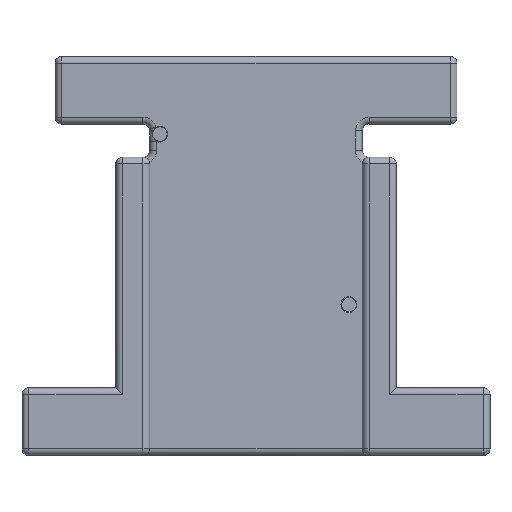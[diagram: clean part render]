
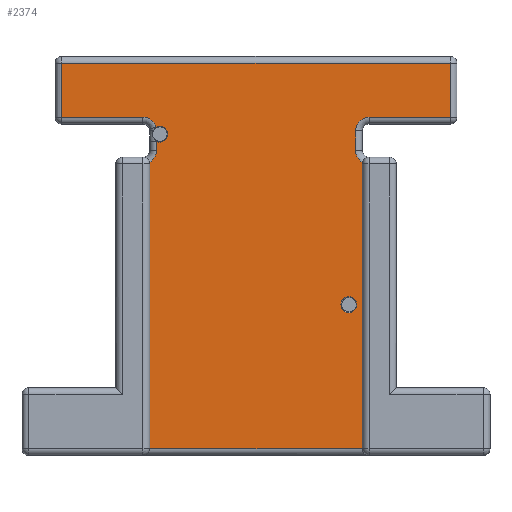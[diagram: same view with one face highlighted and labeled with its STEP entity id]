
A CAD part, top view. The second image highlights one B-rep face of the part: STEP entity #2374.
In plain terms, the highlighted planar face has unit normal (0, 0, 1).
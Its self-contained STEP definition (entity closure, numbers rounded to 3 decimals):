
#154=FACE_BOUND('',#417,.T.);
#166=PLANE('',#2608);
#243=FACE_OUTER_BOUND('',#416,.T.);
#416=EDGE_LOOP('',(#1778,#1779,#1780,#1781,#1782,#1783,#1784,#1785,#1786,
#1787,#1788,#1789,#1790,#1791,#1792,#1793,#1794));
#417=EDGE_LOOP('',(#1795));
#567=LINE('',#3777,#746);
#578=LINE('',#3827,#757);
#592=LINE('',#3903,#771);
#597=LINE('',#3959,#776);
#598=LINE('',#3961,#777);
#599=LINE('',#3962,#778);
#600=LINE('',#3966,#779);
#601=LINE('',#3968,#780);
#602=LINE('',#3974,#781);
#603=LINE('',#3977,#782);
#746=VECTOR('',#2940,10.);
#757=VECTOR('',#3003,10.);
#771=VECTOR('',#3053,10.);
#776=VECTOR('',#3082,10.);
#777=VECTOR('',#3083,10.);
#778=VECTOR('',#3084,10.);
#779=VECTOR('',#3089,10.);
#780=VECTOR('',#3090,10.);
#781=VECTOR('',#3095,10.);
#782=VECTOR('',#3098,10.);
#945=CIRCLE('',#2592,4.);
#951=CIRCLE('',#2601,4.);
#955=CIRCLE('',#2609,2.35);
#956=CIRCLE('',#2610,2.);
#957=CIRCLE('',#2611,2.);
#958=CIRCLE('',#2612,4.);
#959=CIRCLE('',#2613,4.);
#960=CIRCLE('',#2614,2.35);
#1089=VERTEX_POINT('',#3770);
#1092=VERTEX_POINT('',#3775);
#1102=VERTEX_POINT('',#3820);
#1105=VERTEX_POINT('',#3825);
#1121=VERTEX_POINT('',#3880);
#1122=VERTEX_POINT('',#3893);
#1124=VERTEX_POINT('',#3899);
#1130=VERTEX_POINT('',#3930);
#1131=VERTEX_POINT('',#3932);
#1134=VERTEX_POINT('',#3958);
#1135=VERTEX_POINT('',#3960);
#1136=VERTEX_POINT('',#3964);
#1137=VERTEX_POINT('',#3967);
#1138=VERTEX_POINT('',#3969);
#1139=VERTEX_POINT('',#3971);
#1140=VERTEX_POINT('',#3973);
#1141=VERTEX_POINT('',#3975);
#1142=VERTEX_POINT('',#3978);
#1299=EDGE_CURVE('',#1092,#1089,#567,.T.);
#1324=EDGE_CURVE('',#1105,#1102,#578,.T.);
#1346=EDGE_CURVE('',#1121,#1122,#945,.T.);
#1351=EDGE_CURVE('',#1122,#1124,#592,.T.);
#1357=EDGE_CURVE('',#1130,#1131,#951,.T.);
#1366=EDGE_CURVE('',#1134,#1092,#597,.T.);
#1367=EDGE_CURVE('',#1135,#1134,#598,.T.);
#1368=EDGE_CURVE('',#1131,#1135,#599,.T.);
#1369=EDGE_CURVE('',#1124,#1130,#955,.T.);
#1370=EDGE_CURVE('',#1121,#1136,#956,.T.);
#1371=EDGE_CURVE('',#1102,#1136,#600,.T.);
#1372=EDGE_CURVE('',#1137,#1105,#601,.T.);
#1373=EDGE_CURVE('',#1138,#1137,#957,.F.);
#1374=EDGE_CURVE('',#1139,#1138,#958,.T.);
#1375=EDGE_CURVE('',#1140,#1139,#602,.T.);
#1376=EDGE_CURVE('',#1141,#1140,#959,.T.);
#1377=EDGE_CURVE('',#1089,#1141,#603,.T.);
#1378=EDGE_CURVE('',#1142,#1142,#960,.T.);
#1778=ORIENTED_EDGE('',*,*,#1299,.F.);
#1779=ORIENTED_EDGE('',*,*,#1366,.F.);
#1780=ORIENTED_EDGE('',*,*,#1367,.F.);
#1781=ORIENTED_EDGE('',*,*,#1368,.F.);
#1782=ORIENTED_EDGE('',*,*,#1357,.F.);
#1783=ORIENTED_EDGE('',*,*,#1369,.F.);
#1784=ORIENTED_EDGE('',*,*,#1351,.F.);
#1785=ORIENTED_EDGE('',*,*,#1346,.F.);
#1786=ORIENTED_EDGE('',*,*,#1370,.T.);
#1787=ORIENTED_EDGE('',*,*,#1371,.F.);
#1788=ORIENTED_EDGE('',*,*,#1324,.F.);
#1789=ORIENTED_EDGE('',*,*,#1372,.F.);
#1790=ORIENTED_EDGE('',*,*,#1373,.F.);
#1791=ORIENTED_EDGE('',*,*,#1374,.F.);
#1792=ORIENTED_EDGE('',*,*,#1375,.F.);
#1793=ORIENTED_EDGE('',*,*,#1376,.F.);
#1794=ORIENTED_EDGE('',*,*,#1377,.F.);
#1795=ORIENTED_EDGE('',*,*,#1378,.F.);
#2374=ADVANCED_FACE('',(#243,#154),#166,.T.);
#2592=AXIS2_PLACEMENT_3D('',#3894,#3042,#3043);
#2601=AXIS2_PLACEMENT_3D('',#3933,#3063,#3064);
#2608=AXIS2_PLACEMENT_3D('',#3957,#3080,#3081);
#2609=AXIS2_PLACEMENT_3D('',#3963,#3085,#3086);
#2610=AXIS2_PLACEMENT_3D('',#3965,#3087,#3088);
#2611=AXIS2_PLACEMENT_3D('',#3970,#3091,#3092);
#2612=AXIS2_PLACEMENT_3D('',#3972,#3093,#3094);
#2613=AXIS2_PLACEMENT_3D('',#3976,#3096,#3097);
#2614=AXIS2_PLACEMENT_3D('',#3979,#3099,#3100);
#2940=DIRECTION('',(0.,-1.,0.));
#3003=DIRECTION('',(-1.,0.,0.));
#3042=DIRECTION('center_axis',(0.,0.,1.));
#3043=DIRECTION('ref_axis',(0.707,-0.707,0.));
#3053=DIRECTION('',(0.,1.,0.));
#3063=DIRECTION('center_axis',(0.,0.,1.));
#3064=DIRECTION('ref_axis',(0.487,0.873,0.));
#3080=DIRECTION('center_axis',(0.,0.,1.));
#3081=DIRECTION('ref_axis',(1.,0.,0.));
#3082=DIRECTION('',(1.,0.,0.));
#3083=DIRECTION('',(0.,1.,0.));
#3084=DIRECTION('',(-1.,0.,0.));
#3085=DIRECTION('center_axis',(0.,0.,1.));
#3086=DIRECTION('ref_axis',(0.,-1.,0.));
#3087=DIRECTION('center_axis',(0.,0.,-1.));
#3088=DIRECTION('ref_axis',(0.707,0.707,0.));
#3089=DIRECTION('',(0.,1.,0.));
#3090=DIRECTION('',(0.,-1.,0.));
#3091=DIRECTION('center_axis',(0.,0.,-1.));
#3092=DIRECTION('ref_axis',(-0.707,0.707,0.));
#3093=DIRECTION('center_axis',(0.,0.,1.));
#3094=DIRECTION('ref_axis',(-0.707,-0.707,0.));
#3095=DIRECTION('',(0.,-1.,0.));
#3096=DIRECTION('center_axis',(0.,0.,1.));
#3097=DIRECTION('ref_axis',(-0.707,0.707,0.));
#3098=DIRECTION('',(-1.,0.,0.));
#3099=DIRECTION('center_axis',(0.,0.,1.));
#3100=DIRECTION('ref_axis',(0.,-1.,0.));
#3770=CARTESIAN_POINT('',(181.,-36.,0.));
#3775=CARTESIAN_POINT('',(181.,-20.,0.));
#3777=CARTESIAN_POINT('',(181.,-14.,0.));
#3820=CARTESIAN_POINT('',(92.,-134.15,0.));
#3825=CARTESIAN_POINT('',(155.,-134.15,0.));
#3827=CARTESIAN_POINT('',(46.,-134.15,0.));
#3880=CARTESIAN_POINT('',(91.936,-49.325,0.));
#3893=CARTESIAN_POINT('',(94.,-45.825,0.));
#3894=CARTESIAN_POINT('Origin',(90.,-45.825,0.));
#3899=CARTESIAN_POINT('',(94.,-43.127,0.));
#3903=CARTESIAN_POINT('',(94.,-47.5,0.));
#3930=CARTESIAN_POINT('',(93.859,-38.946,0.));
#3932=CARTESIAN_POINT('',(90.,-36.,0.));
#3933=CARTESIAN_POINT('Origin',(90.,-40.,0.));
#3957=CARTESIAN_POINT('Origin',(0.,0.,0.));
#3958=CARTESIAN_POINT('',(66.,-20.,0.));
#3959=CARTESIAN_POINT('',(46.,-20.,0.));
#3960=CARTESIAN_POINT('',(66.,-36.,0.));
#3961=CARTESIAN_POINT('',(66.,-14.,0.));
#3962=CARTESIAN_POINT('',(46.,-36.,0.));
#3963=CARTESIAN_POINT('Origin',(95.,-41.,0.));
#3964=CARTESIAN_POINT('',(92.,-49.825,0.));
#3965=CARTESIAN_POINT('Origin',(90.,-49.825,0.));
#3966=CARTESIAN_POINT('',(92.,-93.,0.));
#3967=CARTESIAN_POINT('',(155.,-49.825,0.));
#3968=CARTESIAN_POINT('',(155.,-93.,0.));
#3969=CARTESIAN_POINT('',(155.064,-49.325,0.));
#3970=CARTESIAN_POINT('Origin',(157.,-49.825,0.));
#3971=CARTESIAN_POINT('',(153.,-45.825,0.));
#3972=CARTESIAN_POINT('Origin',(157.,-45.825,0.));
#3973=CARTESIAN_POINT('',(153.,-40.,0.));
#3974=CARTESIAN_POINT('',(153.,-19.,0.));
#3975=CARTESIAN_POINT('',(157.,-36.,0.));
#3976=CARTESIAN_POINT('Origin',(157.,-40.,0.));
#3977=CARTESIAN_POINT('',(77.5,-36.,0.));
#3978=CARTESIAN_POINT('',(151.,-89.15,0.));
#3979=CARTESIAN_POINT('Origin',(151.,-91.5,0.));
